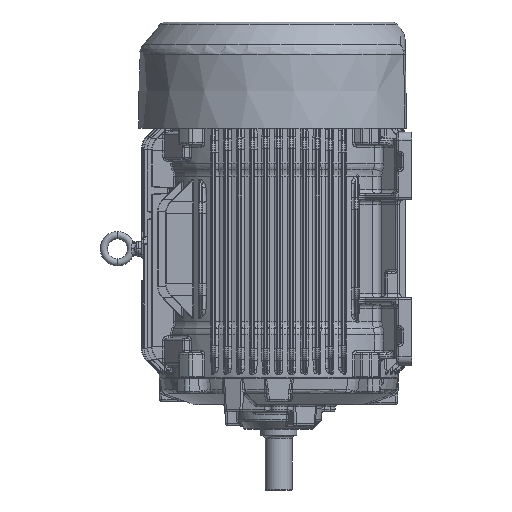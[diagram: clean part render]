
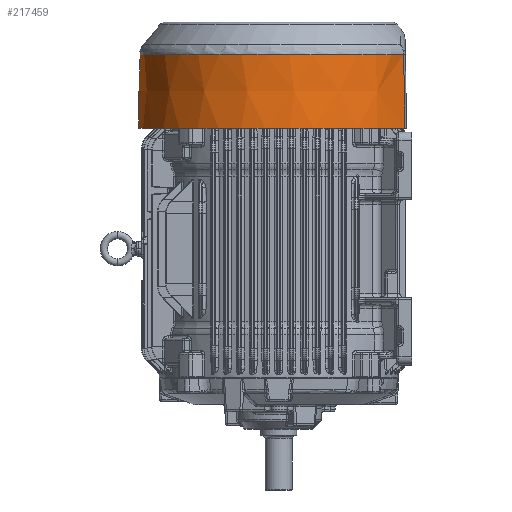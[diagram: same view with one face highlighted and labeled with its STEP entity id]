
A CAD part, left-side view. The second image highlights one B-rep face of the part: STEP entity #217459.
In plain terms, the highlighted conical face has half-angle 1 degrees and reference radius 213.26 mm.
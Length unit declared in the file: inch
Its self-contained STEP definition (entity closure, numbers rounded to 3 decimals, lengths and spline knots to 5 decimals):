
#211566=CARTESIAN_POINT('',(-3.67919,-7.58986,0.));
#211578=CARTESIAN_POINT('',(3.67919,-7.58986,0.));
#211584=CARTESIAN_POINT('',(-3.66361,-7.51176,
-4.41561));
#211585=CARTESIAN_POINT('',(-3.66533,-7.52033,
-3.9314));
#211586=CARTESIAN_POINT('',(-3.66875,-7.53749,
-2.9597));
#211587=CARTESIAN_POINT('',(-3.67365,-7.56204,
-1.57324));
#211588=CARTESIAN_POINT('',(-3.67731,-7.58041,
-0.5345));
#211589=CARTESIAN_POINT('',(-3.67919,-7.58986,0.));
#211591=CARTESIAN_POINT('',(0.,0.,-4.41561));
#211592=DIRECTION('',(0.,0.,-1.));
#211593=DIRECTION('',(-0.438,-0.899,0.));
#211594=AXIS2_PLACEMENT_3D('',#211591,#211592,#211593);
#211596=CARTESIAN_POINT('',(3.67919,-7.58986,0.));
#211597=CARTESIAN_POINT('',(3.67801,-7.58395,
-0.33407));
#211598=CARTESIAN_POINT('',(3.67561,-7.57188,
-1.01657));
#211599=CARTESIAN_POINT('',(3.67188,-7.55319,
-2.07284));
#211600=CARTESIAN_POINT('',(3.66793,-7.53337,
-3.19319));
#211601=CARTESIAN_POINT('',(3.66508,-7.51911,
-3.99919));
#211602=CARTESIAN_POINT('',(3.6636,-7.51174,
-4.41561));
#211604=CARTESIAN_POINT('',(0.,0.,0.));
#211605=DIRECTION('',(0.,0.,1.));
#211606=DIRECTION('',(0.436,-0.9,0.));
#211607=AXIS2_PLACEMENT_3D('',#211604,#211605,#211606);
#215816=VERTEX_POINT('',#211566);
#215819=VERTEX_POINT('',#211584);
#215826=CARTESIAN_POINT('',(3.66351,-7.51179,
-4.41561));
#215827=VERTEX_POINT('',#215826);
#215829=VERTEX_POINT('',#211578);
#217447=CARTESIAN_POINT('',(0.,0.,-2.2078));
#217448=DIRECTION('',(0.,0.,1.));
#217449=DIRECTION('',(0.,1.,0.));
#217450=AXIS2_PLACEMENT_3D('',#217447,#217448,#217449);
#217451=CONICAL_SURFACE('',#217450,8.39606,1.);
#217452=ORIENTED_EDGE('',*,*,#217428,.F.);
#217453=ORIENTED_EDGE('',*,*,#217310,.T.);
#217455=ORIENTED_EDGE('',*,*,#217454,.F.);
#217456=ORIENTED_EDGE('',*,*,#217439,.T.);
#217457=EDGE_LOOP('',(#217452,#217453,#217455,#217456));
#217458=FACE_OUTER_BOUND('',#217457,.F.);
#217459=ADVANCED_FACE('',(#217458),#217451,.T.);
#211590=B_SPLINE_CURVE_WITH_KNOTS('',3,(#211584,#211585,#211586,#211587,#211588,
#211589),.UNSPECIFIED.,.F.,.F.,(4,1,1,4),(0.,0.33333,
0.66667,1.),.UNSPECIFIED.);
#211595=CIRCLE('',#211594,8.35753);
#211603=B_SPLINE_CURVE_WITH_KNOTS('',3,(#211596,#211597,#211598,#211599,#211600,
#211601,#211602),.UNSPECIFIED.,.F.,.F.,(4,1,1,1,4),(0.,0.25,0.5,0.75,
1.),.UNSPECIFIED.);
#211608=CIRCLE('',#211607,8.4346);
#217310=EDGE_CURVE('',#215819,#215827,#211595,.T.);
#217428=EDGE_CURVE('',#215819,#215816,#211590,.T.);
#217439=EDGE_CURVE('',#215829,#215816,#211608,.T.);
#217454=EDGE_CURVE('',#215829,#215827,#211603,.T.);
